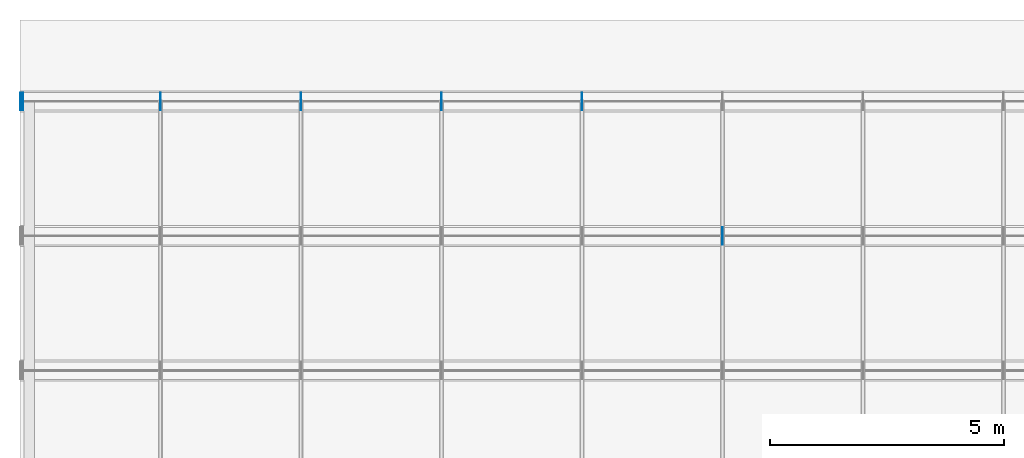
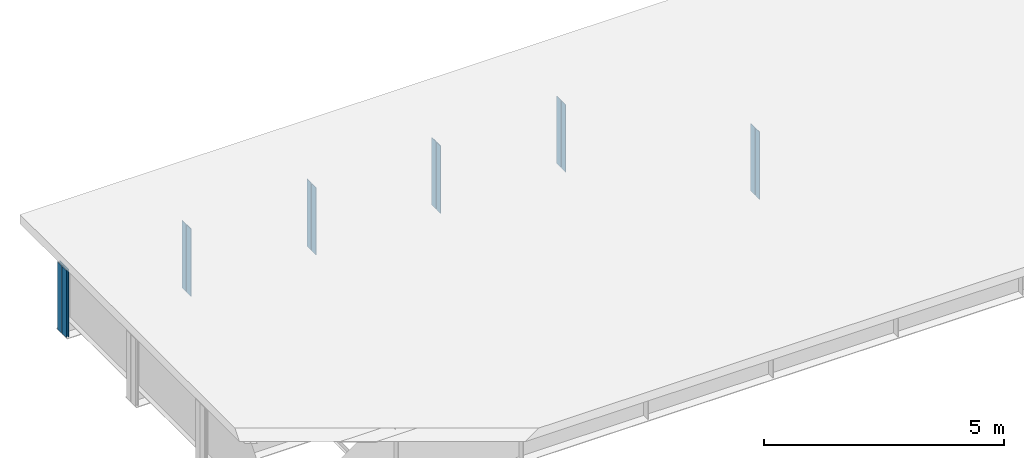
# One storey, part 8 of 11: 14 plates.
"""IFC4 building model written with IfcOpenShell, lengths in metres."""

from ifc_helpers import new_model, si_unit, frame, origin, origin_with_axes, origin_2d_with_axis, place, context, subcontext, project, spatial, rectangle, extrude, element, save


model = new_model("IFC4")

# Units and contexts
model_context = context("Model", 3, precision=1e-05, world=origin())
body_context = subcontext(model_context, "Body", "Model", "MODEL_VIEW")
ifc_project = project(units=[si_unit("LENGTHUNIT", "METRE"), si_unit("AREAUNIT", "SQUARE_METRE"), si_unit("VOLUMEUNIT", "CUBIC_METRE"), si_unit("PLANEANGLEUNIT", "RADIAN")], contexts=[model_context])

# Site, building, storey
site_placement = place(None, origin_with_axes())
site = spatial("IfcSite", under=ifc_project, at=site_placement, Name="Default Site")
building_placement = place(site_placement, origin_with_axes())
building = spatial("IfcBuilding", under=site, at=building_placement, Name="Bridge Structure")
storey_placement = place(building_placement, origin_with_axes())
storey = spatial("IfcBuildingStorey", under=building, at=storey_placement, Name="Superstructure")

# Plates
for number, where, z_axis, x_axis, name in (
    (1, (15.0, 1.53475, -0.856), (0.0, 0.0, 1.0), (1.0, 0.0, 0.0), "Intermediate Stiffener 3"),
    (2, (15.0, 1.34025, -0.856), (0.0, 0.0, 1.0), (1.0, 0.0, 0.0), "Intermediate Stiffener 3"),
    (3, (3.0, 4.40975, -0.856), (0.0, 0.0, 1.0), (1.0, 0.0, 0.0), "Intermediate Stiffener 4"),
    (4, (3.0, 4.21525, -0.856), (0.0, 0.0, 1.0), (1.0, 0.0, 0.0), "Intermediate Stiffener 4"),
    (5, (6.0, 4.40975, -0.856), (0.0, 0.0, 1.0), (1.0, 0.0, 0.0), "Intermediate Stiffener 4"),
    (6, (6.0, 4.21525, -0.856), (0.0, 0.0, 1.0), (1.0, 0.0, 0.0), "Intermediate Stiffener 4"),
    (7, (9.0, 4.40975, -0.856), (0.0, 0.0, 1.0), (1.0, 0.0, 0.0), "Intermediate Stiffener 4"),
    (8, (9.0, 4.21525, -0.856), (0.0, 0.0, 1.0), (1.0, 0.0, 0.0), "Intermediate Stiffener 4"),
    (9, (12.0, 4.40975, -0.856), (0.0, 0.0, 1.0), (1.0, 0.0, 0.0), "Intermediate Stiffener 4"),
    (10, (12.0, 4.21525, -0.856), (0.0, 0.0, 1.0), (1.0, 0.0, 0.0), "Intermediate Stiffener 4"),
):
    element("IfcPlate", number, at=place(storey_placement, frame(where, z_axis=z_axis, x_axis=x_axis)), inside=storey, Name=name, context=body_context, shape_type="SweptSolid", body=[
        extrude(rectangle(XDim=0.012, YDim=0.1805, at=origin_2d_with_axis()), origin_with_axes(), (0.0, 0.0, 1.0), 1.712),
    ])
for number, where, z_axis, x_axis, name in (
    (11, (0.01, 4.40975, -0.856), (0.0, 0.0, 1.0), (1.0, 0.0, 0.0), "End Stiffener 4"),
    (12, (0.01, 4.21525, -0.856), (0.0, 0.0, 1.0), (1.0, 0.0, 0.0), "End Stiffener 4"),
    (13, (0.06, 4.40975, -0.856), (0.0, 0.0, 1.0), (1.0, 0.0, 0.0), "End Stiffener 4"),
    (14, (0.06, 4.21525, -0.856), (0.0, 0.0, 1.0), (1.0, 0.0, 0.0), "End Stiffener 4"),
):
    element("IfcPlate", number, at=place(storey_placement, frame(where, z_axis=z_axis, x_axis=x_axis)), inside=storey, Name=name, context=body_context, shape_type="SweptSolid", body=[
        extrude(rectangle(XDim=0.02, YDim=0.1805, at=origin_2d_with_axis()), origin_with_axes(), (0.0, 0.0, 1.0), 1.712),
    ])

save(model, "model.ifc")
